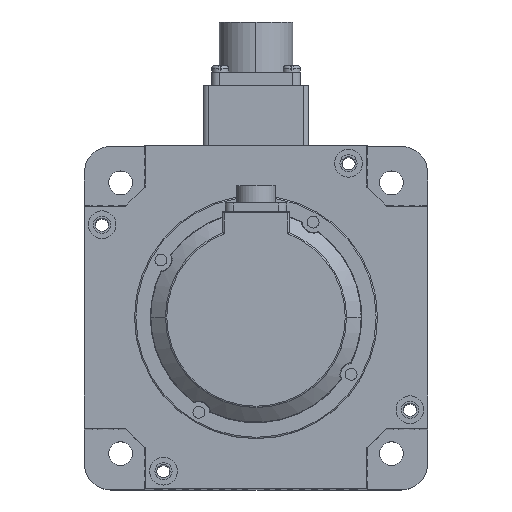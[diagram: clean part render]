
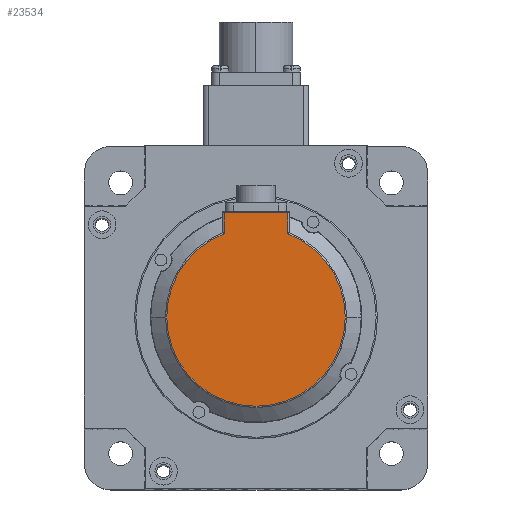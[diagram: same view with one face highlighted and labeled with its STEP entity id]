
A CAD part, top view. The second image highlights one B-rep face of the part: STEP entity #23534.
In plain terms, the highlighted planar face has unit normal (0, 0, 1).
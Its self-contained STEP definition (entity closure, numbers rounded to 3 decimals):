
#638 = VERTEX_POINT ( 'NONE', #22153 ) ;
#694 = VERTEX_POINT ( 'NONE', #3794 ) ;
#1725 = FACE_OUTER_BOUND ( 'NONE', #8177, .T. ) ;
#2963 = AXIS2_PLACEMENT_3D ( 'NONE', #20526, #25404, #11000 ) ;
#3191 = DIRECTION ( 'NONE',  ( 1., 0., 0. ) ) ;
#3794 = CARTESIAN_POINT ( 'NONE',  ( -12., 31.576, 44. ) ) ;
#4403 = DIRECTION ( 'NONE',  ( 0., 1., 0. ) ) ;
#4728 = CARTESIAN_POINT ( 'NONE',  ( 0., 0., 44. ) ) ;
#5279 = LINE ( 'NONE', #21501, #9377 ) ;
#5803 = CARTESIAN_POINT ( 'NONE',  ( -12., 39.5, 44. ) ) ;
#5990 = EDGE_CURVE ( 'NONE', #694, #27079, #7537, .T. ) ;
#6382 = CIRCLE ( 'NONE', #11796, 33.78 ) ;
#6385 = VERTEX_POINT ( 'NONE', #9239 ) ;
#7299 = DIRECTION ( 'NONE',  ( 0., 0., 1. ) ) ;
#7537 = CIRCLE ( 'NONE', #16759, 33.78 ) ;
#7608 = DIRECTION ( 'NONE',  ( 1., 0., 0. ) ) ;
#7670 = VECTOR ( 'NONE', #15844, 1000. ) ;
#7797 = VERTEX_POINT ( 'NONE', #29997 ) ;
#8177 = EDGE_LOOP ( 'NONE', ( #27517, #10950, #15186, #24400, #17532, #23003 ) ) ;
#9128 = DIRECTION ( 'NONE',  ( 1., 0., 0. ) ) ;
#9239 = CARTESIAN_POINT ( 'NONE',  ( 33.78, 0., 44. ) ) ;
#9377 = VECTOR ( 'NONE', #28508, 1000. ) ;
#9887 = DIRECTION ( 'NONE',  ( 0., 0., 1. ) ) ;
#10950 = ORIENTED_EDGE ( 'NONE', *, *, #16917, .T. ) ;
#11000 = DIRECTION ( 'NONE',  ( 1., 0., 0. ) ) ;
#11296 = EDGE_CURVE ( 'NONE', #6385, #7797, #21263, .T. ) ;
#11796 = AXIS2_PLACEMENT_3D ( 'NONE', #28101, #7299, #3191 ) ;
#14554 = EDGE_CURVE ( 'NONE', #7797, #638, #21864, .T. ) ;
#15186 = ORIENTED_EDGE ( 'NONE', *, *, #5990, .T. ) ;
#15652 = DIRECTION ( 'NONE',  ( 0., 0., 1. ) ) ;
#15844 = DIRECTION ( 'NONE',  ( 0., -1., 0. ) ) ;
#16759 = AXIS2_PLACEMENT_3D ( 'NONE', #18519, #15652, #9128 ) ;
#16917 = EDGE_CURVE ( 'NONE', #19578, #694, #27224, .T. ) ;
#17532 = ORIENTED_EDGE ( 'NONE', *, *, #11296, .T. ) ;
#18519 = CARTESIAN_POINT ( 'NONE',  ( 0., 0., 44. ) ) ;
#18557 = CARTESIAN_POINT ( 'NONE',  ( -12., 0., 44. ) ) ;
#18895 = EDGE_CURVE ( 'NONE', #27079, #6385, #6382, .T. ) ;
#19578 = VERTEX_POINT ( 'NONE', #5803 ) ;
#20222 = EDGE_CURVE ( 'NONE', #638, #19578, #5279, .T. ) ;
#20316 = AXIS2_PLACEMENT_3D ( 'NONE', #4728, #9887, #7608 ) ;
#20526 = CARTESIAN_POINT ( 'NONE',  ( 0., 0., 44. ) ) ;
#21091 = VECTOR ( 'NONE', #4403, 1000. ) ;
#21263 = CIRCLE ( 'NONE', #20316, 33.78 ) ;
#21501 = CARTESIAN_POINT ( 'NONE',  ( -12.5, 39.5, 44. ) ) ;
#21864 = LINE ( 'NONE', #24911, #21091 ) ;
#22153 = CARTESIAN_POINT ( 'NONE',  ( 12., 39.5, 44. ) ) ;
#22809 = PLANE ( 'NONE',  #2963 ) ;
#23003 = ORIENTED_EDGE ( 'NONE', *, *, #14554, .T. ) ;
#23534 = ADVANCED_FACE ( 'NONE', ( #1725 ), #22809, .T. ) ;
#24400 = ORIENTED_EDGE ( 'NONE', *, *, #18895, .T. ) ;
#24911 = CARTESIAN_POINT ( 'NONE',  ( 12., 0., 44. ) ) ;
#25114 = CARTESIAN_POINT ( 'NONE',  ( -33.78, 0., 44. ) ) ;
#25404 = DIRECTION ( 'NONE',  ( 0., 0., 1. ) ) ;
#27079 = VERTEX_POINT ( 'NONE', #25114 ) ;
#27224 = LINE ( 'NONE', #18557, #7670 ) ;
#27517 = ORIENTED_EDGE ( 'NONE', *, *, #20222, .T. ) ;
#28101 = CARTESIAN_POINT ( 'NONE',  ( 0., 0., 44. ) ) ;
#28508 = DIRECTION ( 'NONE',  ( -1., 0., 0. ) ) ;
#29997 = CARTESIAN_POINT ( 'NONE',  ( 12., 31.576, 44. ) ) ;
